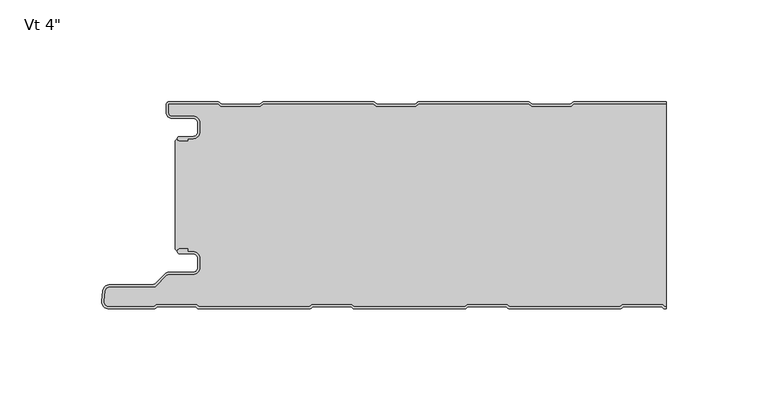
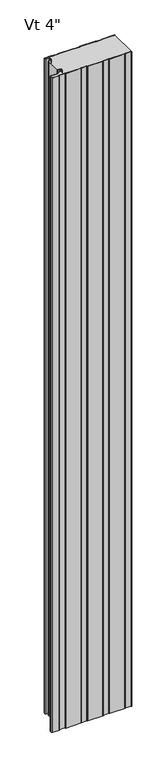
"""IFC4 building model written with IfcOpenShell, lengths in millimetres: plate geometry."""

from ifc_helpers import new_model, si_unit, point, frame, frame_2d, origin, origin_with_axes, place, context, project, spatial, polyline, circle_curve, trimmed, segment, composite_curve, outline, extrude, source, transform, mapped, element, save
from ifc_brep_helpers import plane_surface, cylinder_surface, revolved_surface, advanced_brep


def plate_c3c1f8e7(model_context):
    return source(origin(), model_context, "Body", "SolidModel", [
        advanced_brep(
        [(-118.368691, -17.0015034, 2400.0), (-119.3686883, -18.0015065, 2400.0), (-118.368691, -19.0014978, 2400.0), (-114.3684874, -19.0014979, 2400.0), (-114.3684874, -18.0015034, 2400.0), (-111.6762776, -18.0015034, 2400.0), (-108.3762819, -14.7015077, 2400.0), (-108.3762819, -10.3015164, 2400.0), (-111.6762774, -7.001521, 2400.0), (-122.0962563, -7.001521, 2400.0), (-123.8662505, -5.2315268, 2400.0), (-123.8662505, -0.9999791, 2400.0), (-99.3659738, -0.9999791, 2400.0), (-97.9803312, -2.2002182, 2400.0), (-78.6051649, -2.2002182, 2400.0), (-77.219532, -0.9999874, 2400.0), (-23.1661166, -0.9999874, 2400.0), (-21.7804836, -2.2002182, 2400.0), (-2.4053173, -2.2002182, 2400.0), (-1.0196844, -0.9999874, 2400.0), (53.033731, -0.9999874, 2400.0), (54.419364, -2.2002182, 2400.0), (73.7945303, -2.2002182, 2400.0), (75.1801632, -0.9999874, 2400.0), (120.3999998, -0.9999874, 2400.0), (120.3999998, 1.26e-05, 2400.0), (75.3293144, 1.26e-05, 2400.0), (74.4126975, -0.3417759, 2400.0), (73.4216499, -1.2002182, 2400.0), (54.7922444, -1.2002182, 2400.0), (53.8011968, -0.3417759, 2400.0), (52.8845799, 1.26e-05, 2400.0), (-0.8705332, 1.26e-05, 2400.0), (-1.7871501, -0.3417759, 2400.0), (-2.7781977, -1.2002182, 2400.0), (-21.4076032, -1.2002182, 2400.0), (-22.3986508, -0.3417759, 2400.0), (-23.3152677, 1.26e-05, 2400.0), (-77.0703808, 1.26e-05, 2400.0), (-77.9869977, -0.3417759, 2400.0), (-78.9780453, -1.2002182, 2400.0), (-97.6074508, -1.2002182, 2400.0), (-98.5984984, -0.3417759, 2400.0), (-99.5152067, 1.26e-05, 2400.0), (-123.4662543, 2.09e-05, 2400.0), (-124.8662505, -1.3999752, 2400.0), (-124.8662505, -5.2315268, 2400.0), (-122.0962563, -8.001521, 2400.0), (-111.6762774, -8.001521, 2400.0), (-109.3762819, -10.3015164, 2400.0), (-109.3762819, -14.7015077, 2400.0), (-111.6762776, -17.0015034, 2400.0), (-118.368691, -17.0015034, 0.0), (-111.6762776, -17.0015034, 0.0), (-109.3762819, -14.7015077, 0.0), (-109.3762819, -10.3015164, 0.0), (-111.6762774, -8.001521, 0.0), (-122.0962563, -8.001521, 0.0), (-124.8662505, -5.2315268, 0.0), (-124.8662505, -1.3999752, 0.0), (-123.4662543, 2.09e-05, 0.0), (-99.5151153, 2.09e-05, 0.0), (-98.5984984, -0.3417759, 0.0), (-97.6074508, -1.2002182, 0.0), (-78.9780453, -1.2002182, 0.0), (-77.9869977, -0.3417759, 0.0), (-77.0703808, 1.26e-05, 0.0), (-23.3152677, 1.26e-05, 0.0), (-22.3986508, -0.3417759, 0.0), (-21.4076032, -1.2002182, 0.0), (-2.7781977, -1.2002182, 0.0), (-1.7871501, -0.3417759, 0.0), (-0.8705332, 1.26e-05, 0.0), (52.8845799, 1.26e-05, 0.0), (53.8011968, -0.3417759, 0.0), (54.7922444, -1.2002182, 0.0), (73.4216499, -1.2002182, 0.0), (74.4126975, -0.3417759, 0.0), (75.3293144, 1.26e-05, 0.0), (120.3999998, 1.26e-05, 0.0), (120.3999998, -0.9999874, 0.0), (75.1801632, -0.9999874, 0.0), (73.7945303, -2.2002182, 0.0), (54.419364, -2.2002182, 0.0), (53.033731, -0.9999874, 0.0), (-1.0196844, -0.9999874, 0.0), (-2.4053173, -2.2002182, 0.0), (-21.7804836, -2.2002182, 0.0), (-23.1661166, -0.9999874, 0.0), (-77.219532, -0.9999874, 0.0), (-78.6051649, -2.2002182, 0.0), (-97.9803312, -2.2002182, 0.0), (-99.3659738, -0.9999791, 0.0), (-123.8662505, -0.9999791, 0.0), (-123.8662505, -5.2315268, 0.0), (-122.0962563, -7.001521, 0.0), (-111.6762774, -7.001521, 0.0), (-108.3762819, -10.3015164, 0.0), (-108.3762819, -14.7015077, 0.0), (-111.6762776, -18.0015034, 0.0), (-114.3684874, -18.0015034, 0.0), (-114.3684874, -19.0014979, 0.0), (-118.368691, -19.0014979, 0.0), (-119.3686882, -18.0015065, 0.0)],
        [
            (0, 1, circle_curve(frame((-118.368691, -18.0015006, 2400.0), z_axis=(0.0, 0.0, 1.0), x_axis=(1.0, 0.0, 0.0)), 0.9999973)),
            (1, 2, circle_curve(frame((-118.368691, -18.0015006, 2400.0), z_axis=(0.0, 0.0, 1.0), x_axis=(1.0, 0.0, 0.0)), 0.9999972)),
            (2, 3),
            (3, 4),
            (4, 5),
            (5, 6, circle_curve(frame((-111.6762776, -14.7015077, 2400.0), z_axis=(0.0, 0.0, 1.0), x_axis=(1.0, 0.0, 0.0)), 3.2999957)),
            (6, 7),
            (7, 8, circle_curve(frame((-111.6762774, -10.3015164, 2400.0), z_axis=(0.0, 0.0, 1.0), x_axis=(1.0, 0.0, 0.0)), 3.2999955)),
            (8, 9),
            (9, 10, circle_curve(frame((-122.0962563, -5.2315268, 2400.0), z_axis=(0.0, 0.0, -1.0), x_axis=(1.0, 0.0, 0.0)), 1.7699942)),
            (10, 11),
            (11, 12),
            (12, 13),
            (13, 14),
            (14, 15),
            (15, 16),
            (16, 17),
            (17, 18),
            (18, 19),
            (19, 20),
            (20, 21),
            (21, 22),
            (22, 23),
            (23, 24),
            (24, 25),
            (25, 26),
            (26, 27, circle_curve(frame((75.3293144, -1.3999846, 2400.0), z_axis=(0.0, 0.0, 1.0), x_axis=(1.0, 0.0, 0.0)), 1.3999972)),
            (27, 28),
            (28, 29),
            (29, 30),
            (30, 31, circle_curve(frame((52.8845799, -1.3999846, 2400.0), z_axis=(0.0, 0.0, 1.0), x_axis=(1.0, 0.0, 0.0)), 1.3999972)),
            (31, 32),
            (32, 33, circle_curve(frame((-0.8705332, -1.3999846, 2400.0), z_axis=(0.0, 0.0, 1.0), x_axis=(1.0, 0.0, 0.0)), 1.3999972)),
            (33, 34),
            (34, 35),
            (35, 36),
            (36, 37, circle_curve(frame((-23.3152677, -1.3999846, 2400.0), z_axis=(0.0, 0.0, 1.0), x_axis=(1.0, 0.0, 0.0)), 1.3999972)),
            (37, 38),
            (38, 39, circle_curve(frame((-77.0703808, -1.3999846, 2400.0), z_axis=(0.0, 0.0, 1.0), x_axis=(1.0, 0.0, 0.0)), 1.3999972)),
            (39, 40),
            (40, 41),
            (41, 42),
            (42, 43, circle_curve(frame((-99.5151153, -1.3999846, 2400.0), z_axis=(0.0, 0.0, 1.0), x_axis=(1.0, 0.0, 0.0)), 1.3999972)),
            (43, 44),
            (44, 45, circle_curve(frame((-123.4662543, -1.3999752, 2400.0), z_axis=(0.0, 0.0, 1.0), x_axis=(1.0, 0.0, 0.0)), 1.3999962)),
            (45, 46),
            (46, 47, circle_curve(frame((-122.0962563, -5.2315268, 2400.0), z_axis=(0.0, 0.0, 1.0), x_axis=(1.0, 0.0, 0.0)), 2.7699942)),
            (47, 48),
            (48, 49, circle_curve(frame((-111.6762774, -10.3015164, 2400.0), z_axis=(0.0, 0.0, -1.0), x_axis=(1.0, 0.0, 0.0)), 2.2999955)),
            (49, 50),
            (50, 51, circle_curve(frame((-111.6762776, -14.7015077, 2400.0), z_axis=(0.0, 0.0, -1.0), x_axis=(1.0, 0.0, 0.0)), 2.2999957)),
            (51, 0),
            (52, 53),
            (53, 54, circle_curve(frame((-111.6762776, -14.7015077, 0.0), z_axis=(0.0, 0.0, 1.0), x_axis=(1.0, 0.0, 0.0)), 2.2999957)),
            (54, 55),
            (55, 56, circle_curve(frame((-111.6762774, -10.3015164, 0.0), z_axis=(0.0, 0.0, 1.0), x_axis=(1.0, 0.0, 0.0)), 2.2999955)),
            (56, 57),
            (57, 58, circle_curve(frame((-122.0962563, -5.2315268, 0.0), z_axis=(0.0, 0.0, -1.0), x_axis=(1.0, 0.0, 0.0)), 2.7699942)),
            (58, 59),
            (59, 60, circle_curve(frame((-123.4662543, -1.3999752, 0.0), z_axis=(0.0, 0.0, -1.0), x_axis=(1.0, 0.0, 0.0)), 1.3999962)),
            (60, 61),
            (61, 62, circle_curve(frame((-99.5151153, -1.3999846, 0.0), z_axis=(0.0, 0.0, -1.0), x_axis=(1.0, 0.0, 0.0)), 1.3999972)),
            (62, 63),
            (63, 64),
            (64, 65),
            (65, 66, circle_curve(frame((-77.0703808, -1.3999846, 0.0), z_axis=(0.0, 0.0, -1.0), x_axis=(1.0, 0.0, 0.0)), 1.3999972)),
            (66, 67),
            (67, 68, circle_curve(frame((-23.3152677, -1.3999846, 0.0), z_axis=(0.0, 0.0, -1.0), x_axis=(1.0, 0.0, 0.0)), 1.3999972)),
            (68, 69),
            (69, 70),
            (70, 71),
            (71, 72, circle_curve(frame((-0.8705332, -1.3999846, 0.0), z_axis=(0.0, 0.0, -1.0), x_axis=(1.0, 0.0, 0.0)), 1.3999972)),
            (72, 73),
            (73, 74, circle_curve(frame((52.8845799, -1.3999846, 0.0), z_axis=(0.0, 0.0, -1.0), x_axis=(1.0, 0.0, 0.0)), 1.3999972)),
            (74, 75),
            (75, 76),
            (76, 77),
            (77, 78, circle_curve(frame((75.3293144, -1.3999846, 0.0), z_axis=(0.0, 0.0, -1.0), x_axis=(1.0, 0.0, 0.0)), 1.3999972)),
            (78, 79),
            (79, 80),
            (80, 81),
            (81, 82),
            (82, 83),
            (83, 84),
            (84, 85),
            (85, 86),
            (86, 87),
            (87, 88),
            (88, 89),
            (89, 90),
            (90, 91),
            (91, 92),
            (92, 93),
            (93, 94),
            (94, 95, circle_curve(frame((-122.0962563, -5.2315268, 0.0), z_axis=(0.0, 0.0, 1.0), x_axis=(1.0, 0.0, 0.0)), 1.7699942)),
            (95, 96),
            (96, 97, circle_curve(frame((-111.6762774, -10.3015164, 0.0), z_axis=(0.0, 0.0, -1.0), x_axis=(1.0, 0.0, 0.0)), 3.2999955)),
            (97, 98),
            (98, 99, circle_curve(frame((-111.6762776, -14.7015077, 0.0), z_axis=(0.0, 0.0, -1.0), x_axis=(1.0, 0.0, 0.0)), 3.2999957)),
            (99, 100),
            (100, 101),
            (101, 102),
            (102, 103, circle_curve(frame((-118.368691, -18.0015006, 0.0), z_axis=(0.0, 0.0, -1.0), x_axis=(1.0, 0.0, 0.0)), 0.9999972)),
            (103, 52, circle_curve(frame((-118.368691, -18.0015006, 0.0), z_axis=(0.0, 0.0, -1.0), x_axis=(1.0, 0.0, 0.0)), 0.9999973)),
            (24, 80),
            (79, 25),
            (51, 53),
            (52, 0),
            (50, 54),
            (49, 55),
            (48, 56),
            (47, 57),
            (46, 58),
            (45, 59),
            (44, 60),
            (43, 61),
            (78, 26),
            (42, 62),
            (41, 63),
            (40, 64),
            (38, 66),
            (65, 39),
            (36, 68),
            (67, 37),
            (77, 27),
            (76, 28),
            (31, 73),
            (72, 32),
            (71, 33),
            (34, 70),
            (69, 35),
            (30, 74),
            (29, 75),
            (2, 102),
            (101, 3),
            (1, 103),
            (23, 81),
            (22, 82),
            (21, 83),
            (20, 84),
            (19, 85),
            (18, 86),
            (17, 87),
            (16, 88),
            (15, 89),
            (14, 90),
            (13, 91),
            (12, 92),
            (11, 93),
            (10, 94),
            (9, 95),
            (8, 96),
            (7, 97),
            (6, 98),
            (5, 99),
            (4, 100),
        ],
        [
            plane_surface(frame((184.4000002, 1.26e-05, 2400.0), z_axis=(0.0, 0.0, 1.0), x_axis=(0.0, 1.0, 0.0))),
            plane_surface(frame((184.4000002, 1.26e-05, 0.0), z_axis=(0.0, 0.0, -1.0), x_axis=(0.0, 1.0, 0.0))),
            plane_surface(frame((120.3999998, -111.5999874, 2400.0), z_axis=(1.0, 0.0, 0.0), x_axis=(0.0, 0.0, -1.0))),
            plane_surface(frame((-118.368691, -17.0015034, 2400.0), z_axis=(0.0, 1.0, 0.0), x_axis=(0.0, 0.0, -1.0))),
            revolved_surface(polyline([(-109.37628190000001, -14.7015077, 0.0), (-109.37628190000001, -14.7015077, 2400.0)]), (-111.6762776, -14.7015077, 2400.0), (0.0, 0.0, -1.0)),
            plane_surface(frame((-109.3762819, -14.7015077, 2400.0), z_axis=(-1.0, 0.0, 0.0), x_axis=(0.0, 0.0, -1.0))),
            revolved_surface(polyline([(-109.37628190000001, -10.3015164, 0.0), (-109.37628190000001, -10.3015164, 2400.0)]), (-111.6762774, -10.3015164, 2400.0), (0.0, 0.0, -1.0)),
            plane_surface(frame((-111.6762774, -8.001521, 2400.0), z_axis=(0.0, -1.0, 0.0), x_axis=(0.0, 0.0, -1.0))),
            cylinder_surface(frame((-122.0962563, -5.2315268, 2400.0), z_axis=(0.0, 0.0, 1.0), x_axis=(1.0, 0.0, 0.0)), 2.7699942),
            plane_surface(frame((-124.8662505, -5.2315268, 2400.0), z_axis=(-1.0, 0.0, 0.0), x_axis=(0.0, 0.0, -1.0))),
            cylinder_surface(frame((-123.4662543, -1.3999752, 2400.0), z_axis=(0.0, 0.0, 1.0), x_axis=(1.0, 0.0, 0.0)), 1.3999962),
            plane_surface(frame((-123.4662543, 2.09e-05, 2400.0), z_axis=(0.0, 1.0, 0.0), x_axis=(0.0, 0.0, -1.0))),
            plane_surface(frame((75.3293144, 1.26e-05, 2400.0), z_axis=(0.0, 1.0, 0.0), x_axis=(0.0, 0.0, -1.0))),
            cylinder_surface(frame((-99.5151153, -1.3999846, 2400.0), z_axis=(0.0, 0.0, 1.0), x_axis=(1.0, 0.0, 0.0)), 1.3999972),
            plane_surface(frame((-98.5984984, -0.3417759, 2400.0), z_axis=(0.6547276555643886, 0.755864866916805, 0.0), x_axis=(0.0, 0.0, -1.0))),
            plane_surface(frame((-88.2927481, -1.2002182, 2400.0), z_axis=(0.0, 1.0, 0.0), x_axis=(0.0, 0.0, -1.0))),
            cylinder_surface(frame((-77.0703808, -1.3999846, 2400.0), z_axis=(0.0, 0.0, 1.0), x_axis=(1.0, 0.0, 0.0)), 1.3999972),
            plane_surface(frame((-78.9780453, -1.2002182, 2400.0), z_axis=(-0.6547276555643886, 0.755864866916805, 0.0), x_axis=(0.0, 0.0, -1.0))),
            cylinder_surface(frame((-23.3152677, -1.3999846, 2400.0), z_axis=(0.0, 0.0, 1.0), x_axis=(1.0, 0.0, 0.0)), 1.3999972),
            cylinder_surface(frame((75.3293144, -1.3999846, 2400.0), z_axis=(0.0, 0.0, 1.0), x_axis=(1.0, 0.0, 0.0)), 1.3999972),
            plane_surface(frame((73.4216499, -1.2002182, 2400.0), z_axis=(-0.6547276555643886, 0.755864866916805, 0.0), x_axis=(0.0, 0.0, -1.0))),
            plane_surface(frame((-0.8705332, 1.26e-05, 2400.0), z_axis=(0.0, 1.0, 0.0), x_axis=(0.0, 0.0, -1.0))),
            cylinder_surface(frame((-0.8705332, -1.3999846, 2400.0), z_axis=(0.0, 0.0, 1.0), x_axis=(1.0, 0.0, 0.0)), 1.3999972),
            plane_surface(frame((-12.0929005, -1.2002182, 2400.0), z_axis=(0.0, 1.0, 0.0), x_axis=(0.0, 0.0, -1.0))),
            plane_surface(frame((-22.3986508, -0.3417759, 2400.0), z_axis=(0.6547276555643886, 0.755864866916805, 0.0), x_axis=(0.0, 0.0, -1.0))),
            plane_surface(frame((-2.7781977, -1.2002182, 2400.0), z_axis=(-0.6547276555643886, 0.755864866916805, 0.0), x_axis=(0.0, 0.0, -1.0))),
            plane_surface(frame((-77.0703808, 1.26e-05, 2400.0), z_axis=(0.0, 1.0, 0.0), x_axis=(0.0, 0.0, -1.0))),
            cylinder_surface(frame((52.8845799, -1.3999846, 2400.0), z_axis=(0.0, 0.0, 1.0), x_axis=(1.0, 0.0, 0.0)), 1.3999972),
            plane_surface(frame((53.8011968, -0.3417759, 2400.0), z_axis=(0.6547276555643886, 0.755864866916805, 0.0), x_axis=(0.0, 0.0, -1.0))),
            plane_surface(frame((64.1069471, -1.2002182, 2400.0), z_axis=(0.0, 1.0, 0.0), x_axis=(0.0, 0.0, -1.0))),
            plane_surface(frame((-114.3684874, -19.0014979, 2400.0), z_axis=(0.0, -1.0, 0.0), x_axis=(0.0, 0.0, -1.0))),
            cylinder_surface(frame((-118.368691, -18.0015006, 2400.0), z_axis=(0.0, 0.0, 1.0), x_axis=(1.0, 0.0, 0.0)), 0.9999972),
            cylinder_surface(frame((-118.368691, -18.0015006, 2400.0), z_axis=(0.0, 0.0, 1.0), x_axis=(1.0, 0.0, 0.0)), 0.9999973),
            plane_surface(frame((129.2335786, -0.9999874, 2400.0), z_axis=(0.0, -1.0, 0.0), x_axis=(0.0, 0.0, -1.0))),
            plane_surface(frame((75.1801632, -0.9999874, 2400.0), z_axis=(0.6547276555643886, -0.755864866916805, 0.0), x_axis=(0.0, 0.0, -1.0))),
            plane_surface(frame((73.7945303, -2.2002182, 2400.0), z_axis=(0.0, -1.0, 0.0), x_axis=(0.0, 0.0, -1.0))),
            plane_surface(frame((54.419364, -2.2002182, 2400.0), z_axis=(-0.6547276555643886, -0.755864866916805, 0.0), x_axis=(0.0, 0.0, -1.0))),
            plane_surface(frame((53.033731, -0.9999874, 2400.0), z_axis=(0.0, -1.0, 0.0), x_axis=(0.0, 0.0, -1.0))),
            plane_surface(frame((-1.0196844, -0.9999874, 2400.0), z_axis=(0.6547276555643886, -0.755864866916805, 0.0), x_axis=(0.0, 0.0, -1.0))),
            plane_surface(frame((-2.4053173, -2.2002182, 2400.0), z_axis=(0.0, -1.0, 0.0), x_axis=(0.0, 0.0, -1.0))),
            plane_surface(frame((-21.7804836, -2.2002182, 2400.0), z_axis=(-0.6547276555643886, -0.755864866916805, 0.0), x_axis=(0.0, 0.0, -1.0))),
            plane_surface(frame((-23.1661166, -0.9999874, 2400.0), z_axis=(0.0, -1.0, 0.0), x_axis=(0.0, 0.0, -1.0))),
            plane_surface(frame((-77.219532, -0.9999874, 2400.0), z_axis=(0.6547276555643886, -0.755864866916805, 0.0), x_axis=(0.0, 0.0, -1.0))),
            plane_surface(frame((-78.6051649, -2.2002182, 2400.0), z_axis=(0.0, -1.0, 0.0), x_axis=(0.0, 0.0, -1.0))),
            plane_surface(frame((-97.9803312, -2.2002182, 2400.0), z_axis=(-0.6547276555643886, -0.755864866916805, 0.0), x_axis=(0.0, 0.0, -1.0))),
            plane_surface(frame((-99.3659738, -0.9999791, 2400.0), z_axis=(0.0, -1.0, 0.0), x_axis=(0.0, 0.0, -1.0))),
            plane_surface(frame((-123.8662505, -0.9999791, 2400.0), z_axis=(1.0, 0.0, 0.0), x_axis=(0.0, 0.0, -1.0))),
            revolved_surface(polyline([(-120.3262621, -5.2315268, 0.0), (-120.3262621, -5.2315268, 2400.0)]), (-122.0962563, -5.2315268, 2400.0), (0.0, 0.0, -1.0)),
            plane_surface(frame((-122.0962563, -7.001521, 2400.0), z_axis=(0.0, 1.0, 0.0), x_axis=(0.0, 0.0, -1.0))),
            cylinder_surface(frame((-111.6762774, -10.3015164, 2400.0), z_axis=(0.0, 0.0, 1.0), x_axis=(1.0, 0.0, 0.0)), 3.2999955),
            plane_surface(frame((-108.3762819, -10.3015164, 2400.0), z_axis=(1.0, 0.0, 0.0), x_axis=(0.0, 0.0, -1.0))),
            cylinder_surface(frame((-111.6762776, -14.7015077, 2400.0), z_axis=(0.0, 0.0, 1.0), x_axis=(1.0, 0.0, 0.0)), 3.2999957),
            plane_surface(frame((-111.6762776, -18.0015034, 2400.0), z_axis=(0.0, -1.0, 0.0), x_axis=(0.0, 0.0, -1.0))),
            plane_surface(frame((-114.3684874, -18.0015034, 2400.0), z_axis=(1.0, 0.0, 0.0), x_axis=(0.0, 0.0, -1.0))),
        ],
        [
            (0, [[1, 2, 3, 4, 5, 6, 7, 8, 9, 10, 11, 12, 13, 14, 15, 16, 17, 18, 19, 20, 21, 22, 23, 24, 25, 26, 27, 28, 29, 30, 31, 32, 33, 34, 35, 36, 37, 38, 39, 40, 41, 42, 43, 44, 45, 46, 47, 48, 49, 50, 51, 52]]),
            (1, [[53, 54, 55, 56, 57, 58, 59, 60, 61, 62, 63, 64, 65, 66, 67, 68, 69, 70, 71, 72, 73, 74, 75, 76, 77, 78, 79, 80, 81, 82, 83, 84, 85, 86, 87, 88, 89, 90, 91, 92, 93, 94, 95, 96, 97, 98, 99, 100, 101, 102, 103, 104]]),
            (2, [[105, -80, 106, -25]]),
            (3, [[107, -53, 108, -52]]),
            (4, [[109, -54, -107, -51]]),
            (5, [[110, -55, -109, -50]]),
            (6, [[111, -56, -110, -49]]),
            (7, [[112, -57, -111, -48]]),
            (8, [[113, -58, -112, -47]]),
            (9, [[114, -59, -113, -46]]),
            (10, [[115, -60, -114, -45]]),
            (11, [[116, -61, -115, -44]]),
            (12, [[-26, -106, -79, 117]]),
            (13, [[118, -62, -116, -43]]),
            (14, [[119, -63, -118, -42]]),
            (15, [[120, -64, -119, -41]]),
            (16, [[121, -66, 122, -39]]),
            (17, [[-122, -65, -120, -40]]),
            (18, [[123, -68, 124, -37]]),
            (19, [[-117, -78, 125, -27]]),
            (20, [[-125, -77, 126, -28]]),
            (21, [[127, -73, 128, -32]]),
            (22, [[-128, -72, 129, -33]]),
            (23, [[130, -70, 131, -35]]),
            (24, [[-131, -69, -123, -36]]),
            (25, [[-129, -71, -130, -34]]),
            (26, [[-124, -67, -121, -38]]),
            (27, [[132, -74, -127, -31]]),
            (28, [[133, -75, -132, -30]]),
            (29, [[-126, -76, -133, -29]]),
            (30, [[134, -102, 135, -3]]),
            (31, [[136, -103, -134, -2]]),
            (32, [[-108, -104, -136, -1]]),
            (33, [[-81, -105, -24, 137]]),
            (34, [[138, -82, -137, -23]]),
            (35, [[139, -83, -138, -22]]),
            (36, [[140, -84, -139, -21]]),
            (37, [[141, -85, -140, -20]]),
            (38, [[142, -86, -141, -19]]),
            (39, [[143, -87, -142, -18]]),
            (40, [[144, -88, -143, -17]]),
            (41, [[145, -89, -144, -16]]),
            (42, [[146, -90, -145, -15]]),
            (43, [[147, -91, -146, -14]]),
            (44, [[148, -92, -147, -13]]),
            (45, [[149, -93, -148, -12]]),
            (46, [[150, -94, -149, -11]]),
            (47, [[151, -95, -150, -10]]),
            (48, [[152, -96, -151, -9]]),
            (49, [[153, -97, -152, -8]]),
            (50, [[154, -98, -153, -7]]),
            (51, [[155, -99, -154, -6]]),
            (52, [[156, -100, -155, -5]]),
            (53, [[-135, -101, -156, -4]]),
        ],
    ),
        extrude(outline(composite_curve([segment(polyline([(-131.0415932, -101.5997253), (-152.8521175, -101.5997253)]), True, "CONTINUOUS"), segment(trimmed(circle_curve(frame_2d((-152.8521175, -98.029486)), 3.5702393), [point((-152.8521175, -101.5997253))], [point((-156.4087619, -97.7182156))], False, "CARTESIAN"), True, "CONTINUOUS"), segment(polyline([(-156.4087619, -97.7182156), (-155.9690674, -92.694169)]), True, "CONTINUOUS"), segment(trimmed(circle_curve(frame_2d((-152.3198391, -93.3049701)), 3.6999926), [point((-155.9690674, -92.694169))], [point((-152.3198391, -89.6049775))], False, "CARTESIAN"), True, "CONTINUOUS"), segment(polyline([(-152.3198391, -89.6049775), (-131.1773995, -89.6049775)]), True, "CONTINUOUS"), segment(trimmed(circle_curve(frame_2d((-131.1773995, -88.3049801)), 1.2999974), [point((-131.1773995, -89.6049775))], [point((-130.2581626, -89.2242171))], True, "CARTESIAN"), True, "CONTINUOUS"), segment(polyline([(-130.2581626, -89.2242171), (-125.4297451, -84.3957996)]), True, "CONTINUOUS"), segment(trimmed(circle_curve(frame_2d((-123.5205606, -86.3049841)), 2.6999946), [point((-125.4297451, -84.3957996))], [point((-123.5205606, -83.6049895))], False, "CARTESIAN"), True, "CONTINUOUS"), segment(polyline([(-123.5205606, -83.6049895), (-111.7096715, -83.6049895)]), True, "CONTINUOUS"), segment(trimmed(circle_curve(frame_2d((-111.7096715, -81.2549942)), 2.3499953), [point((-111.7096715, -83.6049895))], [point((-109.3596762, -81.2549942))], True, "CARTESIAN"), True, "CONTINUOUS"), segment(polyline([(-109.3596762, -81.2549942), (-109.3596762, -76.855003)]), True, "CONTINUOUS"), segment(trimmed(circle_curve(frame_2d((-111.7096715, -76.855003)), 2.3499953), [point((-109.3596762, -76.855003))], [point((-111.7096715, -74.5050077))], True, "CARTESIAN"), True, "CONTINUOUS"), segment(polyline([(-111.7096715, -74.5050077), (-118.2289777, -74.5050077)]), True, "CONTINUOUS"), segment(trimmed(circle_curve(frame_2d((-118.1686906, -73.3065254)), 1.1999976), [point((-118.2289777, -74.5050077))], [point((-119.3683, -73.2760035))], False, "CARTESIAN"), True, "CONTINUOUS"), segment(trimmed(circle_curve(frame_2d((-118.1686906, -73.3065254)), 1.1999976), [point((-119.3683, -73.2760035))], [point((-118.167176, -72.1065288))], False, "CARTESIAN"), True, "CONTINUOUS"), segment(polyline([(-118.167176, -72.1065288), (-114.4087826, -72.1065288), (-114.4087826, -73.5050077), (-111.7096715, -73.5050077)]), True, "CONTINUOUS"), segment(trimmed(circle_curve(frame_2d((-111.7096715, -76.855003)), 3.3499953), [point((-111.7096715, -73.5050077))], [point((-108.3596762, -76.855003))], False, "CARTESIAN"), True, "CONTINUOUS"), segment(polyline([(-108.3596762, -76.855003), (-108.3596762, -81.2549942)]), True, "CONTINUOUS"), segment(trimmed(circle_curve(frame_2d((-111.7096715, -81.2549942)), 3.3499953), [point((-108.3596762, -81.2549942))], [point((-111.7096715, -84.6049895))], False, "CARTESIAN"), True, "CONTINUOUS"), segment(polyline([(-111.7096715, -84.6049895), (-123.5205606, -84.6049895)]), True, "CONTINUOUS"), segment(trimmed(circle_curve(frame_2d((-123.5205606, -86.3049841)), 1.6999946), [point((-123.5205606, -84.6049895))], [point((-124.7226383, -85.1029064))], True, "CARTESIAN"), True, "CONTINUOUS"), segment(polyline([(-124.7226383, -85.1029064), (-130.2247094, -90.6049775), (-152.3198391, -90.6049775)]), True, "CONTINUOUS"), segment(trimmed(circle_curve(frame_2d((-152.3198391, -93.3049701)), 2.6999926), [point((-152.3198391, -90.6049775))], [point((-154.9765707, -92.8235795))], True, "CARTESIAN"), True, "CONTINUOUS"), segment(polyline([(-154.9765707, -92.8235795), (-155.4125697, -97.8054003)]), True, "CONTINUOUS"), segment(trimmed(circle_curve(frame_2d((-152.8521175, -98.029486)), 2.5702393), [point((-155.4125697, -97.8054003))], [point((-152.8521175, -100.5997253))], True, "CARTESIAN"), True, "CONTINUOUS"), segment(polyline([(-152.8521175, -100.5997253), (-130.879096, -100.5997253), (-129.6791275, -99.3997567), (-109.959715, -99.3997567), (-108.7594843, -100.5999874), (-54.6793525, -100.5999874), (-53.4791218, -99.3997567), (-33.7597093, -99.3997567), (-32.5594786, -100.5999874), (21.5206532, -100.5999874), (22.7208839, -99.3997567), (42.4402964, -99.3997567), (43.6405271, -100.5999874), (97.7206589, -100.5999874), (98.9208896, -99.3997567), (118.6403021, -99.3997567), (119.8405328, -100.5999874), (120.3999998, -100.5999874), (120.3999998, -101.5999874), (120.010284, -101.5999874)]), True, "CONTINUOUS"), segment(trimmed(circle_curve(frame_2d((120.0026306, -100.2000112)), 1.3999972), [point((120.010284, -101.5999874))], [point((118.9585798, -101.1327223))], False, "CARTESIAN"), True, "CONTINUOUS"), segment(polyline([(118.9585798, -101.1327223), (118.2256142, -100.3997567), (99.334945, -100.3997567), (98.6020004, -101.1327014)]), True, "CONTINUOUS"), segment(trimmed(circle_curve(frame_2d((97.5579496, -100.1999902)), 1.3999972), [point((98.6020004, -101.1327014))], [point((97.5579496, -101.5999874))], False, "CARTESIAN"), True, "CONTINUOUS"), segment(polyline([(97.5579496, -101.5999874), (43.8104364, -101.5999874)]), True, "CONTINUOUS"), segment(trimmed(circle_curve(frame_2d((43.802783, -100.2000112)), 1.3999972), [point((43.8104364, -101.5999874))], [point((42.7587322, -101.1327223))], False, "CARTESIAN"), True, "CONTINUOUS"), segment(polyline([(42.7587322, -101.1327223), (42.0257666, -100.3997567), (23.1350974, -100.3997567), (22.4021528, -101.1327014)]), True, "CONTINUOUS"), segment(trimmed(circle_curve(frame_2d((21.358102, -100.1999902)), 1.3999972), [point((22.4021528, -101.1327014))], [point((21.358102, -101.5999874))], False, "CARTESIAN"), True, "CONTINUOUS"), segment(polyline([(21.358102, -101.5999874), (-32.3894112, -101.5999874)]), True, "CONTINUOUS"), segment(trimmed(circle_curve(frame_2d((-32.3970646, -100.2000112)), 1.3999972), [point((-32.3894112, -101.5999874))], [point((-33.4411154, -101.1327223))], False, "CARTESIAN"), True, "CONTINUOUS"), segment(polyline([(-33.4411154, -101.1327223), (-34.174081, -100.3997567), (-53.0647502, -100.3997567), (-53.7976948, -101.1327014)]), True, "CONTINUOUS"), segment(trimmed(circle_curve(frame_2d((-54.8417456, -100.1999902)), 1.3999972), [point((-53.7976948, -101.1327014))], [point((-54.8417456, -101.5999874))], False, "CARTESIAN"), True, "CONTINUOUS"), segment(polyline([(-54.8417456, -101.5999874), (-108.5892588, -101.5999874)]), True, "CONTINUOUS"), segment(trimmed(circle_curve(frame_2d((-108.5969122, -100.2000112)), 1.3999972), [point((-108.5892588, -101.5999874))], [point((-109.640963, -101.1327223))], False, "CARTESIAN"), True, "CONTINUOUS"), segment(polyline([(-109.640963, -101.1327223), (-110.3739286, -100.3997567), (-129.2649139, -100.3997567), (-129.9976402, -101.132483)]), True, "CONTINUOUS"), segment(trimmed(circle_curve(frame_2d((-131.0415932, -100.1998592)), 1.3998661), [point((-129.9976402, -101.132483))], [point((-131.0415932, -101.5997253))], False, "CARTESIAN"), True, "CONTINUOUS")], self_intersect=False)), origin_with_axes(), (0.0, 0.0, 1.0), 2400.0),
        extrude(outline(composite_curve([segment(polyline([(-119.3683, -73.2760035), (-120.3999998, -72.2443036), (-120.3999998, -19.0328183), (-119.3686882, -18.0015066)]), True, "CONTINUOUS"), segment(trimmed(circle_curve(frame_2d((-118.368691, -18.0015007)), 0.9999972), [point((-119.3686882, -18.0015066))], [point((-118.368691, -19.0014979))], True, "CARTESIAN"), True, "CONTINUOUS"), segment(polyline([(-118.368691, -19.0014979), (-114.3684873, -19.0014979), (-114.3684873, -18.0015034), (-111.6762775, -18.0015034)]), True, "CONTINUOUS"), segment(trimmed(circle_curve(frame_2d((-111.6762775, -14.7015077)), 3.2999957), [point((-111.6762775, -18.0015034))], [point((-108.3762818, -14.7015077))], True, "CARTESIAN"), True, "CONTINUOUS"), segment(polyline([(-108.3762818, -14.7015077), (-108.3762818, -10.3015164)]), True, "CONTINUOUS"), segment(trimmed(circle_curve(frame_2d((-111.6762777, -10.3015164)), 3.2999959), [point((-108.3762818, -10.3015164))], [point((-111.6762777, -7.0015206))], True, "CARTESIAN"), True, "CONTINUOUS"), segment(polyline([(-111.6762777, -7.0015206), (-122.0962562, -7.0015206)]), True, "CONTINUOUS"), segment(trimmed(circle_curve(frame_2d((-122.0962562, -5.2315264)), 1.7699942), [point((-122.0962562, -7.0015206))], [point((-123.8662504, -5.2315264))], False, "CARTESIAN"), True, "CONTINUOUS"), segment(polyline([(-123.8662504, -5.2315264), (-123.8662504, -0.9999791), (-99.3659738, -0.9999791), (-97.9803312, -2.2002182), (-78.6051649, -2.2002182), (-77.2195319, -0.9999874), (-23.1661165, -0.9999874), (-21.7804836, -2.2002182), (-2.4053173, -2.2002182), (-1.0196843, -0.9999874), (53.0337311, -0.9999874), (54.419364, -2.2002182), (73.7945303, -2.2002182), (75.1801633, -0.9999874), (120.3999998, -0.9999874), (120.3999998, -100.5999874), (119.8405328, -100.5999874), (118.6403021, -99.3997567), (98.9208896, -99.3997567), (97.7206589, -100.5999874), (43.6405271, -100.5999874), (42.4402964, -99.3997567), (22.7208839, -99.3997567), (21.5206532, -100.5999874), (-32.5594786, -100.5999874), (-33.7597093, -99.3997567), (-53.4791218, -99.3997567), (-54.6793525, -100.5999874), (-108.7594843, -100.5999874), (-109.959715, -99.3997567), (-129.6791275, -99.3997567), (-130.879096, -100.5997253), (-152.8521175, -100.5997253)]), True, "CONTINUOUS"), segment(trimmed(circle_curve(frame_2d((-152.8521175, -98.029486)), 2.5702393), [point((-152.8521175, -100.5997253))], [point((-155.4125697, -97.8054003))], False, "CARTESIAN"), True, "CONTINUOUS"), segment(polyline([(-155.4125697, -97.8054003), (-154.9765707, -92.8235795)]), True, "CONTINUOUS"), segment(trimmed(circle_curve(frame_2d((-152.3198391, -93.3049701)), 2.6999926), [point((-154.9765707, -92.8235795))], [point((-152.3198391, -90.6049775))], False, "CARTESIAN"), True, "CONTINUOUS"), segment(polyline([(-152.3198391, -90.6049775), (-130.2247094, -90.6049775), (-124.7226383, -85.1029064)]), True, "CONTINUOUS"), segment(trimmed(circle_curve(frame_2d((-123.5205606, -86.3049841)), 1.6999946), [point((-124.7226383, -85.1029064))], [point((-123.5205606, -84.6049895))], False, "CARTESIAN"), True, "CONTINUOUS"), segment(polyline([(-123.5205606, -84.6049895), (-111.7096715, -84.6049895)]), True, "CONTINUOUS"), segment(trimmed(circle_curve(frame_2d((-111.7096715, -81.2549942)), 3.3499953), [point((-111.7096715, -84.6049895))], [point((-108.3596762, -81.2549942))], True, "CARTESIAN"), True, "CONTINUOUS"), segment(polyline([(-108.3596762, -81.2549942), (-108.3596762, -76.855003)]), True, "CONTINUOUS"), segment(trimmed(circle_curve(frame_2d((-111.7096715, -76.855003)), 3.3499953), [point((-108.3596762, -76.855003))], [point((-111.7096715, -73.5050077))], True, "CARTESIAN"), True, "CONTINUOUS"), segment(polyline([(-111.7096715, -73.5050077), (-114.4087826, -73.5050077), (-114.4087826, -72.1065288), (-118.167176, -72.1065288)]), True, "CONTINUOUS"), segment(trimmed(circle_curve(frame_2d((-118.1686906, -73.3065254)), 1.1999976), [point((-118.167176, -72.1065288))], [point((-119.3683, -73.2760035))], True, "CARTESIAN"), True, "CONTINUOUS")], self_intersect=False)), origin_with_axes(), (0.0, 0.0, 1.0), 2400.0),
    ])


if __name__ == "__main__":
    model = new_model("IFC4")
    model_context = context("Model", 3, world=origin())
    ifc_project = project(units=[si_unit("LENGTHUNIT", "METRE", prefix="MILLI")], contexts=[model_context])
    site = spatial("IfcSite", under=ifc_project)
    building = spatial("IfcBuilding", under=site)
    placement = place(None, origin())
    plate_shape = plate_c3c1f8e7(model_context)
    element("IfcPlate", 1, ObjectType="KIP-24-Karrier-KP-R19-CP-Vt-SL3-8in_SL : Vt 4\"", at=placement, inside=building, context=model_context, shape_type="MappedRepresentation", body=[
        mapped(plate_shape, transform((0.0, 0.0, 0.0), x_axis=(1.0, 0.0, 0.0), y_axis=(0.0, 1.0, 0.0), z_axis=(0.0, 0.0, 1.0))),
    ])
    save(model, "model.ifc")
